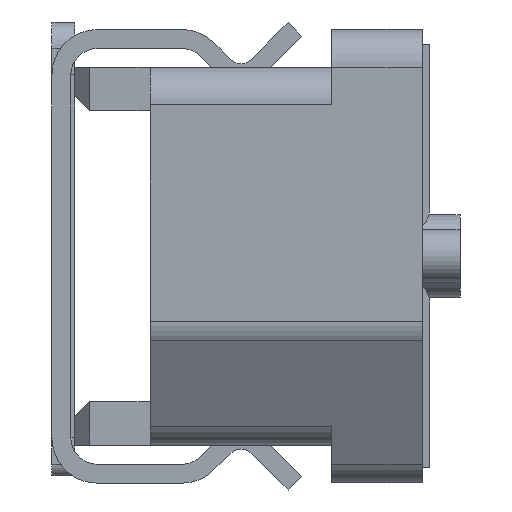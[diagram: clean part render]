
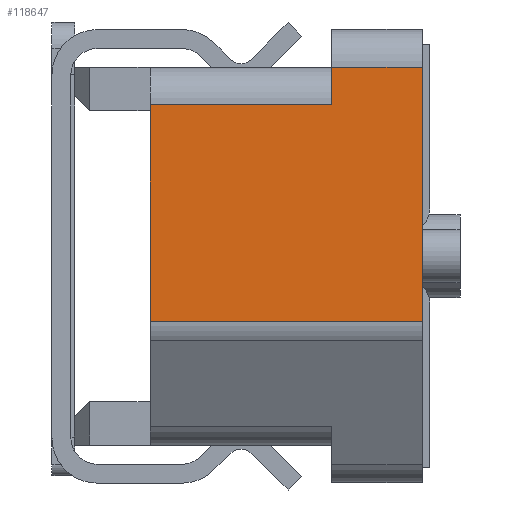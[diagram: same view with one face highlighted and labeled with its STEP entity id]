
A CAD part, left-side view. The second image highlights one B-rep face of the part: STEP entity #118647.
In plain terms, the highlighted planar face has unit normal (-1, 0, 0).
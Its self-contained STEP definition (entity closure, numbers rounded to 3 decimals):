
#29625 = VECTOR ( 'NONE', #141727, 1000. ) ;
#29632 = VECTOR ( 'NONE', #141717, 1000. ) ;
#29638 = VECTOR ( 'NONE', #141732, 1000. ) ;
#29642 = VECTOR ( 'NONE', #141722, 1000. ) ;
#29650 = VECTOR ( 'NONE', #141735, 1000. ) ;
#29931 = VECTOR ( 'NONE', #144117, 1000. ) ;
#33029 = FACE_OUTER_BOUND ( 'NONE', #160970, .T. ) ;
#33060 = PLANE ( 'NONE',  #173635 ) ;
#33080 = CARTESIAN_POINT ( 'NONE',  ( -16.504, 17.959, 2.5 ) ) ;
#33082 = DIRECTION ( 'NONE',  ( 1., 0., 0. ) ) ;
#33083 = DIRECTION ( 'NONE',  ( 0., 0., -1. ) ) ;
#81712 = CARTESIAN_POINT ( 'NONE',  ( -16.504, 17.959, 2.5 ) ) ;
#81830 = CARTESIAN_POINT ( 'NONE',  ( -16.504, 21.559, 2. ) ) ;
#96687 = CARTESIAN_POINT ( 'NONE',  ( -16.504, 19.159, 2. ) ) ;
#100404 = CARTESIAN_POINT ( 'NONE',  ( -16.504, 21.559, -0.862 ) ) ;
#102051 = CARTESIAN_POINT ( 'NONE',  ( -16.504, 17.959, -0.862 ) ) ;
#106948 = ORIENTED_EDGE ( 'NONE', *, *, #182490, .T. ) ;
#106952 = ORIENTED_EDGE ( 'NONE', *, *, #182486, .F. ) ;
#106956 = ORIENTED_EDGE ( 'NONE', *, *, #182483, .T. ) ;
#106959 = ORIENTED_EDGE ( 'NONE', *, *, #182479, .F. ) ;
#106961 = ORIENTED_EDGE ( 'NONE', *, *, #182475, .T. ) ;
#106964 = ORIENTED_EDGE ( 'NONE', *, *, #182963, .F. ) ;
#118647 = ADVANCED_FACE ( 'NONE', ( #33029 ), #33060, .F. ) ;
#126790 = CARTESIAN_POINT ( 'NONE',  ( -16.504, 19.159, 2.5 ) ) ;
#141704 = LINE ( 'NONE', #141716, #29632 ) ;
#141713 = LINE ( 'NONE', #141718, #29642 ) ;
#141716 = CARTESIAN_POINT ( 'NONE',  ( -16.504, 21.559, 2.5 ) ) ;
#141717 = DIRECTION ( 'NONE',  ( 0., 0., -1. ) ) ;
#141718 = CARTESIAN_POINT ( 'NONE',  ( -16.504, 19.159, 2. ) ) ;
#141720 = LINE ( 'NONE', #141731, #29638 ) ;
#141722 = DIRECTION ( 'NONE',  ( 0., -1., 0. ) ) ;
#141723 = LINE ( 'NONE', #141725, #29625 ) ;
#141725 = CARTESIAN_POINT ( 'NONE',  ( -16.504, 19.159, 1.994 ) ) ;
#141727 = DIRECTION ( 'NONE',  ( 0., 0., -1. ) ) ;
#141728 = CARTESIAN_POINT ( 'NONE',  ( -16.504, 17.959, -3. ) ) ;
#141731 = CARTESIAN_POINT ( 'NONE',  ( -16.504, 19.159, 2.5 ) ) ;
#141732 = DIRECTION ( 'NONE',  ( 0., -1., 0. ) ) ;
#141733 = LINE ( 'NONE', #141728, #29650 ) ;
#141735 = DIRECTION ( 'NONE',  ( 0., 0., 1. ) ) ;
#144103 = LINE ( 'NONE', #144114, #29931 ) ;
#144114 = CARTESIAN_POINT ( 'NONE',  ( -16.504, 17.959, -0.862 ) ) ;
#144117 = DIRECTION ( 'NONE',  ( 0., 1., 0. ) ) ;
#160970 = EDGE_LOOP ( 'NONE', ( #106948, #106952, #106956, #106959, #106961, #106964 ) ) ;
#173635 = AXIS2_PLACEMENT_3D ( 'NONE', #33080, #33082, #33083 ) ;
#182475 = EDGE_CURVE ( 'NONE', #200665, #196334, #141704, .T. ) ;
#182479 = EDGE_CURVE ( 'NONE', #200665, #197355, #141713, .T. ) ;
#182483 = EDGE_CURVE ( 'NONE', #197708, #197355, #141723, .T. ) ;
#182486 = EDGE_CURVE ( 'NONE', #197708, #200630, #141720, .T. ) ;
#182490 = EDGE_CURVE ( 'NONE', #196772, #200630, #141733, .T. ) ;
#182963 = EDGE_CURVE ( 'NONE', #196772, #196334, #144103, .T. ) ;
#196334 = VERTEX_POINT ( 'NONE', #100404 ) ;
#196772 = VERTEX_POINT ( 'NONE', #102051 ) ;
#197355 = VERTEX_POINT ( 'NONE', #96687 ) ;
#197708 = VERTEX_POINT ( 'NONE', #126790 ) ;
#200630 = VERTEX_POINT ( 'NONE', #81712 ) ;
#200665 = VERTEX_POINT ( 'NONE', #81830 ) ;
